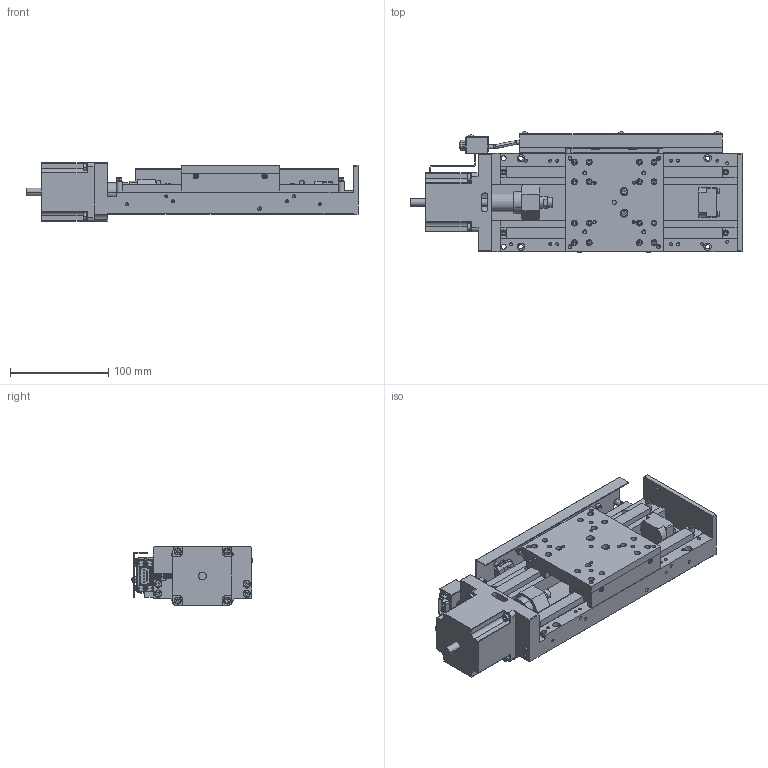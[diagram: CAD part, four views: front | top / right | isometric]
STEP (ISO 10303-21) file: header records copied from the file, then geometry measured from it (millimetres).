
FILE_DESCRIPTION( (''), '2;1');
FILE_NAME ('MVXA10A-L201-R.stp','2022-03-28T17:19:46',(''),(''),'spGate 17.5.5','','');
FILE_SCHEMA (('AUTOMOTIVE_DESIGN'));
Length unit declared in the file: millimetre
Products named in the file (3): Assembly; MVXA10A-L201-R-prt0; MVXA10A-L201-R-prt1
Assembly tree (2 placements, depth 2):
  Assembly
    MVXA10A-L201-R-prt0
    MVXA10A-L201-R-prt1
Bounding box: 337.8 x 122.49 x 60 mm (x, y, z)
Volume: 1001828.7 mm3; surface area: 227798.8 mm2
Topology: 2 solids, 4 shells, 2992 faces, 7152 edges, 4250 vertices
Faces by surface type: plane 1612, cylinder 789, bspline 535, sphere 56
Entity records: 146993 total; most frequent: CARTESIAN_POINT 24395, ORIENTED_EDGE 13908, DIRECTION 12968, COLOUR_RGB 9948, PRESENTATION_STYLE_ASSIGNMENT 9948, STYLED_ITEM 9948, EDGE_CURVE 6954, DRAUGHTING_PRE_DEFINED_CURVE_FONT 6954
